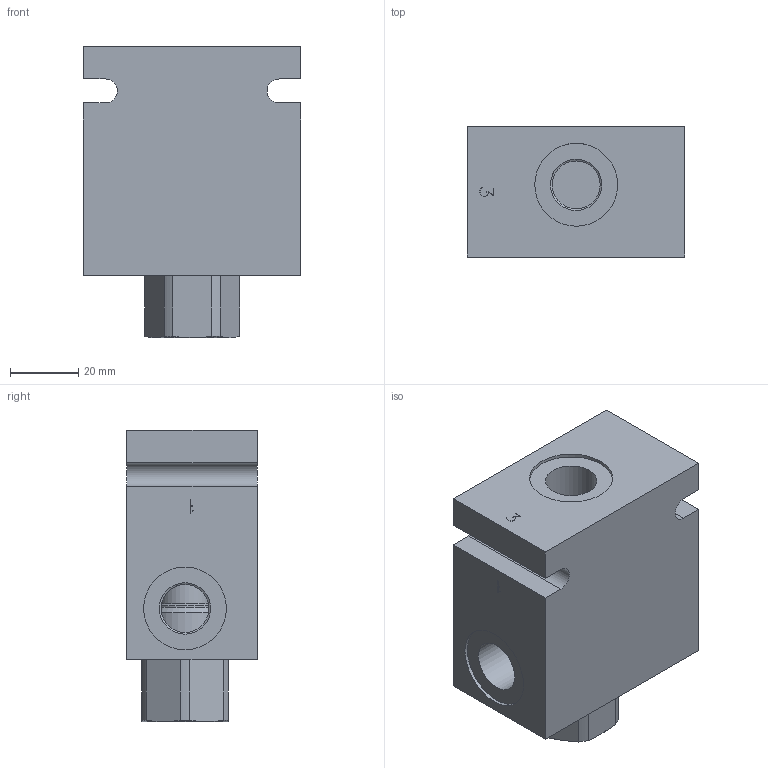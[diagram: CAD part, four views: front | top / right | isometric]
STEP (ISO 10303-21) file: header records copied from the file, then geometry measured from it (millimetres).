
FILE_DESCRIPTION(/* description */ ('Unknown'),/* implementation_level */ '2;1');
FILE_NAME(/* name */ 'D-DFPDI00-B3',/* time_stamp */ '2019-03-12T10:44:53+00:00',/* author */ ('Unknown'),/* organization */ ('Unknown'),/* preprocessor_version */ 'ST-DEVELOPER v16.7',/* originating_system */ 'DEX',/* authorisation */ $);
FILE_SCHEMA (('AUTOMOTIVE_DESIGN {1 0 10303 214 3 1 1}'));
Length unit declared in the file: millimetre
Products named in the file (9): DFPDI-3D FULL; 35802025-EXT; 35202225-EXT; 60188910; 60108015; 60108014; 60420014; 60420015; B-DDFB3
Assembly tree (10 placements, depth 2):
  DFPDI-3D FULL
    35802025-EXT
    35202225-EXT
    60188910
    60108015
    60108014
    60420014  x2
    60420015  x2
    B-DDFB3
Bounding box: 63.5 x 38.1 x 85.05 mm (x, y, z)
Volume: 153888.2 mm3; surface area: 32447.5 mm2
Topology: 10 solids, 10 shells, 201 faces, 470 edges, 302 vertices
Faces by surface type: plane 119, cylinder 51, cone 26, torus 5
Full cylindrical faces by diameter (mm): 0.2 x3, 12.7 x2, 12.992 x1, 14 x2, 14.275 x1, 14.592 x1, 14.605 x2, 15 x6, 15.088 x1, 15.392 x2, 15.761 x2, 15.875 x1, 15.926 x1, 17.302 x2, 17.323 x3, 17.399 x1, 17.526 x1, 17.527 x1, 19.622 x1, 20.262 x2, 22.225 x1, 24.2 x3, 30.175 x1
Entity records: 6181 total; most frequent: CARTESIAN_POINT 1123, ORIENTED_EDGE 774, DIRECTION 735, EDGE_CURVE 387, AXIS2_PLACEMENT_3D 310, VERTEX_POINT 282, FACE_BOUND 275, EDGE_LOOP 272
